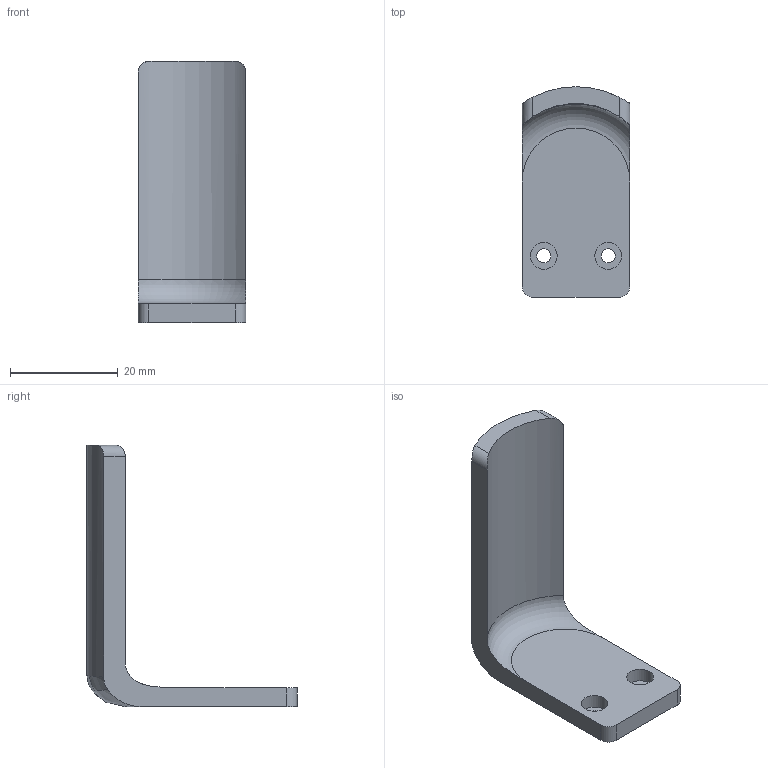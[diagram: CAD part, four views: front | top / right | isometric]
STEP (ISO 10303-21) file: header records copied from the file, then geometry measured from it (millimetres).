
FILE_DESCRIPTION(/* description */ (''),/* implementation_level */ '2;1');
FILE_NAME(/* name */ 'ORA Rounded Jaw Med.step',/* time_stamp */ '2024-09-26T15:32:13-07:00',/* author */ (''),/* organization */ (''),/* preprocessor_version */ 'ST-DEVELOPER v20',/* originating_system */ 'Autodesk Translation Framework v13.20.0.188',/* authorisation */ '');
FILE_SCHEMA (('AUTOMOTIVE_DESIGN { 1 0 10303 214 3 1 1 }'));
Length unit declared in the file: millimetre
Products named in the file (1): Gripper Lite Alternate Jaw
Bounding box: 20 x 39.01 x 48.5 mm (x, y, z)
Volume: 5485.8 mm3; surface area: 4177.9 mm2
Topology: 1 solids, 1 shells, 21 faces, 51 edges, 34 vertices
Faces by surface type: cylinder 10, plane 8, bspline 2, torus 1
Full cylindrical faces by diameter (mm): 2.6 x2, 5 x2
Entity records: 783 total; most frequent: CARTESIAN_POINT 244, ORIENTED_EDGE 102, DIRECTION 96, EDGE_CURVE 51, AXIS2_PLACEMENT_3D 37, VERTEX_POINT 34, EDGE_LOOP 27, LINE 22
